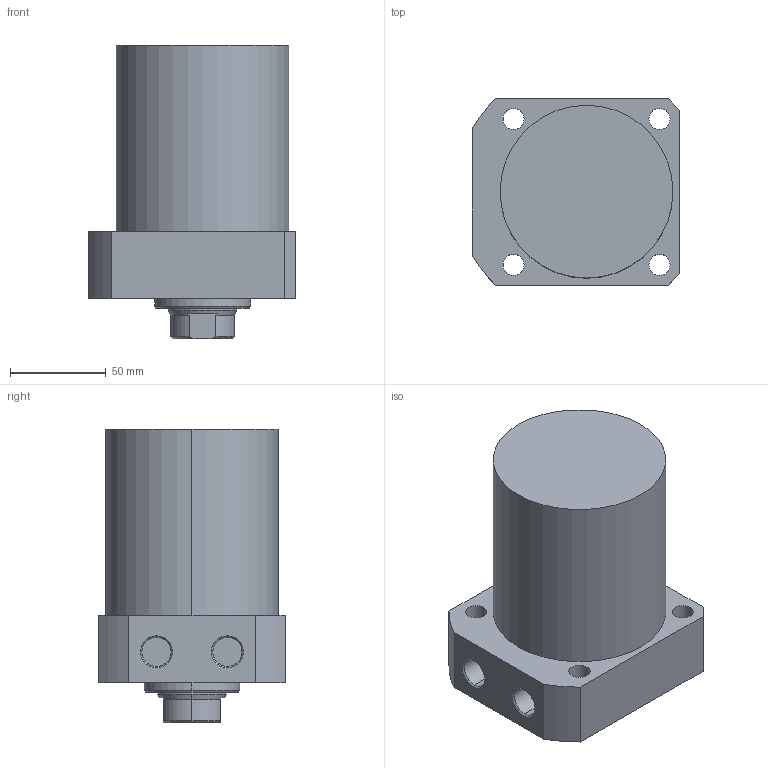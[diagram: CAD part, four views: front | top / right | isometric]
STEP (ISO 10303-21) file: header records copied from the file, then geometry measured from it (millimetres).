
FILE_DESCRIPTION (( 'STEP AP203' ), '1' );
FILE_NAME ('CLLR-090CA-075.STEP', '2019-12-19T02:20:49', ( '' ), ( '' ), 'SwSTEP 2.0', 'SolidWorks 2015', '' );
FILE_SCHEMA (( 'CONFIG_CONTROL_DESIGN' ));
Length unit declared in the file: millimetre
Products named in the file (1): CLLR-090CA-075
Bounding box: 108 x 97 x 153 mm (x, y, z)
Volume: 967350.5 mm3; surface area: 72488.7 mm2
Topology: 1 solids, 1 shells, 63 faces, 149 edges, 94 vertices
Faces by surface type: cylinder 29, plane 19, cone 15
Entity records: 1927 total; most frequent: DIRECTION 340, CARTESIAN_POINT 337, ORIENTED_EDGE 294, EDGE_CURVE 147, AXIS2_PLACEMENT_3D 137, VERTEX_POINT 94, EDGE_LOOP 79, CIRCLE 73
